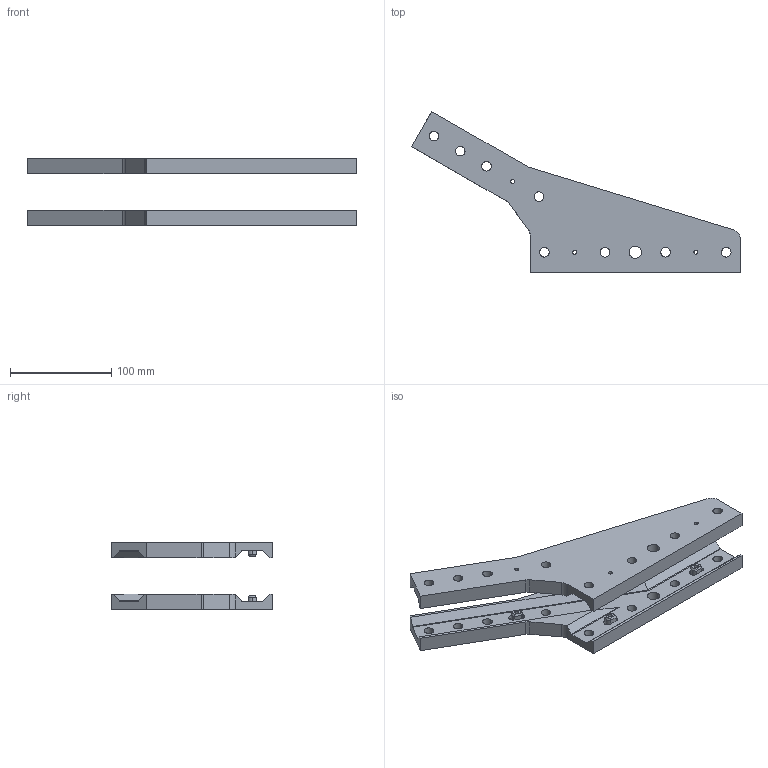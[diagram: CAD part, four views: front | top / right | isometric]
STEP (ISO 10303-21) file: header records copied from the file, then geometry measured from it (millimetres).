
FILE_DESCRIPTION(('STEP AP214'),'1');
FILE_NAME('EGT239_1700843_T-VERB_VARIABEL_SW50.CATPart.stp','2015-09-14T13:15:10',('3D-Tool'),(' '),'Spatial InterOp 3D',' ',' ');
FILE_SCHEMA(('automotive_design'));
Length unit declared in the file: millimetre
Products named in the file (8): EGT239_1700843_T-VERB_VARIABEL_SW50|EGT239_T-VERB_VARIABEL_SW50|Bohrbearbeitung; EGT239_1700843_T-VERB_VARIABEL_SW50|EGT239_T-Verbindung_Variabel_SW50_SW50|Symmetry.1; 1; 2; 3; 4; 5; 6
Bounding box: 325.31 x 159.32 x 66 mm (x, y, z)
Volume: 428126.1 mm3; surface area: 113489.3 mm2
Topology: 8 solids, 8 shells, 276 faces, 736 edges, 482 vertices
Faces by surface type: cylinder 174, plane 90, cone 12
Entity records: 11347 total; most frequent: CARTESIAN_POINT 1674, DIRECTION 1624, ORIENTED_EDGE 1472, EDGE_CURVE 736, AXIS2_PLACEMENT_3D 636, VERTEX_POINT 482, LINE 352, CIRCLE 352
